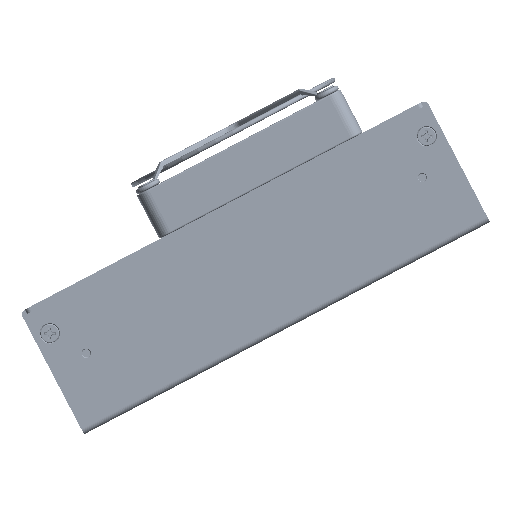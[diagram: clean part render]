
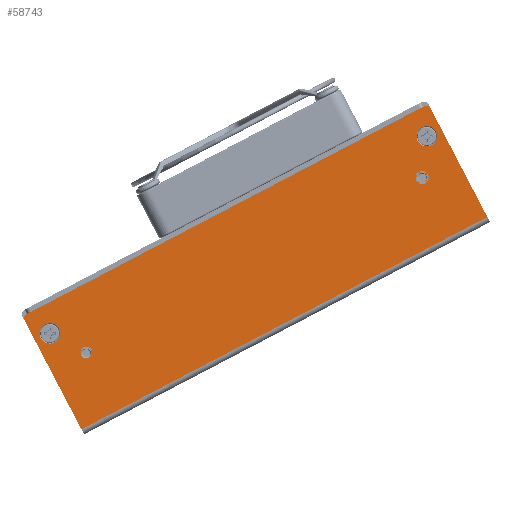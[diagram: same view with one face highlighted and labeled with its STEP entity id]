
A CAD part, front view. The second image highlights one B-rep face of the part: STEP entity #58743.
In plain terms, the highlighted planar face has unit normal (0, -1, 0).
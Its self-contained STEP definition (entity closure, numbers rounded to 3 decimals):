
#4583=FACE_BOUND($,#10661,.T.);
#4584=FACE_BOUND($,#10662,.T.);
#4585=FACE_BOUND($,#10663,.T.);
#4586=FACE_BOUND($,#10664,.T.);
#4587=FACE_BOUND($,#10665,.T.);
#5369=PLANE($,#62248);
#10661=EDGE_LOOP($,(#41270));
#10662=EDGE_LOOP($,(#41271));
#10663=EDGE_LOOP($,(#41272));
#10664=EDGE_LOOP($,(#41273,#41274,#41275,#41276,#41277,#41278));
#10665=EDGE_LOOP($,(#41279));
#14751=LINE($,#81040,#20237);
#14754=LINE($,#81052,#20240);
#14755=LINE($,#81054,#20241);
#14756=LINE($,#81056,#20242);
#20237=VECTOR($,#66688,136.7);
#20240=VECTOR($,#66699,37.4);
#20241=VECTOR($,#66700,139.7);
#20242=VECTOR($,#66701,37.4);
#25721=CIRCLE($,#62245,1.5);
#25723=CIRCLE($,#62249,3.1);
#25724=CIRCLE($,#62250,1.6);
#25725=CIRCLE($,#62251,1.6);
#25726=CIRCLE($,#62252,1.5);
#25727=CIRCLE($,#62253,3.1);
#27223=VERTEX_POINT($,#81030);
#27224=VERTEX_POINT($,#81031);
#27227=VERTEX_POINT($,#81039);
#27229=VERTEX_POINT($,#81045);
#27230=VERTEX_POINT($,#81047);
#27231=VERTEX_POINT($,#81049);
#27232=VERTEX_POINT($,#81051);
#27233=VERTEX_POINT($,#81053);
#27234=VERTEX_POINT($,#81055);
#27235=VERTEX_POINT($,#81058);
#32801=EDGE_CURVE($,#27223,#27224,#25721,.T.);
#32805=EDGE_CURVE($,#27224,#27227,#14751,.T.);
#32808=EDGE_CURVE($,#27229,#27229,#25723,.T.);
#32809=EDGE_CURVE($,#27230,#27230,#25724,.T.);
#32810=EDGE_CURVE($,#27231,#27231,#25725,.T.);
#32811=EDGE_CURVE($,#27223,#27232,#14754,.T.);
#32812=EDGE_CURVE($,#27233,#27232,#14755,.T.);
#32813=EDGE_CURVE($,#27233,#27234,#14756,.T.);
#32814=EDGE_CURVE($,#27227,#27234,#25726,.T.);
#32815=EDGE_CURVE($,#27235,#27235,#25727,.T.);
#41270=ORIENTED_EDGE($,*,*,#32808,.F.);
#41271=ORIENTED_EDGE($,*,*,#32809,.T.);
#41272=ORIENTED_EDGE($,*,*,#32810,.T.);
#41273=ORIENTED_EDGE($,*,*,#32801,.F.);
#41274=ORIENTED_EDGE($,*,*,#32811,.T.);
#41275=ORIENTED_EDGE($,*,*,#32812,.F.);
#41276=ORIENTED_EDGE($,*,*,#32813,.T.);
#41277=ORIENTED_EDGE($,*,*,#32814,.F.);
#41278=ORIENTED_EDGE($,*,*,#32805,.F.);
#41279=ORIENTED_EDGE($,*,*,#32815,.F.);
#58743=ADVANCED_FACE($,(#4583,#4584,#4585,#4586,#4587),#5369,.T.);
#62245=AXIS2_PLACEMENT_3D($,#81032,#66680,#66681);
#62248=AXIS2_PLACEMENT_3D($,#81044,#66691,#66692);
#62249=AXIS2_PLACEMENT_3D($,#81046,#66693,#66694);
#62250=AXIS2_PLACEMENT_3D($,#81048,#66695,#66696);
#62251=AXIS2_PLACEMENT_3D($,#81050,#66697,#66698);
#62252=AXIS2_PLACEMENT_3D($,#81057,#66702,#66703);
#62253=AXIS2_PLACEMENT_3D($,#81059,#66704,#66705);
#66680=DIRECTION('center_axis',(0.,1.,0.));
#66681=DIRECTION('ref_axis',(-0.707,0.,0.707));
#66688=DIRECTION($,(1.,0.,0.));
#66691=DIRECTION('center_axis',(0.,-1.,0.));
#66692=DIRECTION('ref_axis',(0.,0.,-1.));
#66693=DIRECTION('center_axis',(0.,-1.,0.));
#66694=DIRECTION('ref_axis',(-1.,0.,0.));
#66695=DIRECTION('center_axis',(0.,1.,0.));
#66696=DIRECTION('ref_axis',(1.,0.,0.));
#66697=DIRECTION('center_axis',(0.,1.,0.));
#66698=DIRECTION('ref_axis',(1.,0.,0.));
#66699=DIRECTION($,(0.,0.,-1.));
#66700=DIRECTION($,(-1.,0.,0.));
#66701=DIRECTION($,(0.,0.,1.));
#66702=DIRECTION('center_axis',(0.,1.,0.));
#66703=DIRECTION('ref_axis',(0.707,0.,0.707));
#66704=DIRECTION('center_axis',(0.,-1.,0.));
#66705=DIRECTION('ref_axis',(-1.,0.,0.));
#81030=CARTESIAN_POINT('',(0.,0.,
39.1));
#81031=CARTESIAN_POINT('',(1.5,0.,40.6));
#81032=CARTESIAN_POINT('Origin',(1.5,0.,39.1));
#81039=CARTESIAN_POINT('',(138.2,0.,40.6));
#81040=CARTESIAN_POINT($,(0.,0.,40.6));
#81044=CARTESIAN_POINT('Origin',(0.,0.,0.));
#81045=CARTESIAN_POINT('',(137.8,0.,32.1));
#81046=CARTESIAN_POINT('Origin',(134.7,0.,32.1));
#81047=CARTESIAN_POINT('',(13.65,0.,21.6));
#81048=CARTESIAN_POINT('Origin',(12.05,0.,21.6));
#81049=CARTESIAN_POINT('',(129.25,0.,21.6));
#81050=CARTESIAN_POINT('Origin',(127.65,0.,21.6));
#81051=CARTESIAN_POINT('',(0.,0.,1.7));
#81052=CARTESIAN_POINT($,(0.,0.,40.6));
#81053=CARTESIAN_POINT('',(139.7,0.,1.7));
#81054=CARTESIAN_POINT($,(0.,0.,1.7));
#81055=CARTESIAN_POINT('',(139.7,0.,39.1));
#81056=CARTESIAN_POINT($,(139.7,0.,40.6));
#81057=CARTESIAN_POINT('Origin',(138.2,0.,39.1));
#81058=CARTESIAN_POINT('',(8.1,0.,32.1));
#81059=CARTESIAN_POINT('Origin',(5.,0.,32.1));
